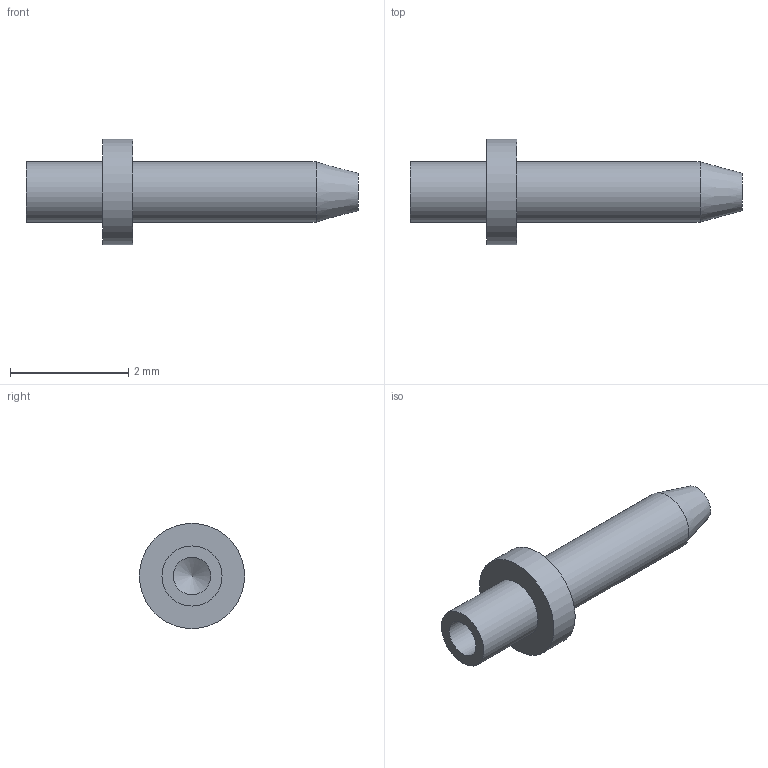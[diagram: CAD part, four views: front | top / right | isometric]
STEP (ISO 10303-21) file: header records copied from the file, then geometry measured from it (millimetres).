
FILE_DESCRIPTION(/* description */ (''),/* implementation_level */ '2;1');
FILE_NAME(/* name */ 'Z:\STEP folder\460297101.ipt.stp',/* time_stamp */ '2016-12-21T13:05:14+00:00',/* author */ ('Paul Karlsons'),/* organization */ (''),/* preprocessor_version */ 'ST-DEVELOPER v15.2',/* originating_system */ 'Autodesk Inventor 2014',/* authorisation */ '');
FILE_SCHEMA (('AUTOMOTIVE_DESIGN { 1 0 10303 214 3 1 1 }'));
Length unit declared in the file: millimetre
Products named in the file (1): 460297101
Bounding box: 5.61 x 1.78 x 1.78 mm (x, y, z)
Volume: 4.9 mm3; surface area: 25.3 mm2
Topology: 1 solids, 1 shells, 10 faces, 16 edges, 10 vertices
Faces by surface type: cylinder 4, plane 4, cone 2
Full cylindrical faces by diameter (mm): 0.635 x1, 1.016 x2, 1.778 x1
Entity records: 215 total; most frequent: DIRECTION 40, CARTESIAN_POINT 29, AXIS2_PLACEMENT_3D 20, EDGE_LOOP 18, ORIENTED_EDGE 18, FACE_BOUND 10, ADVANCED_FACE 10, CIRCLE 9
